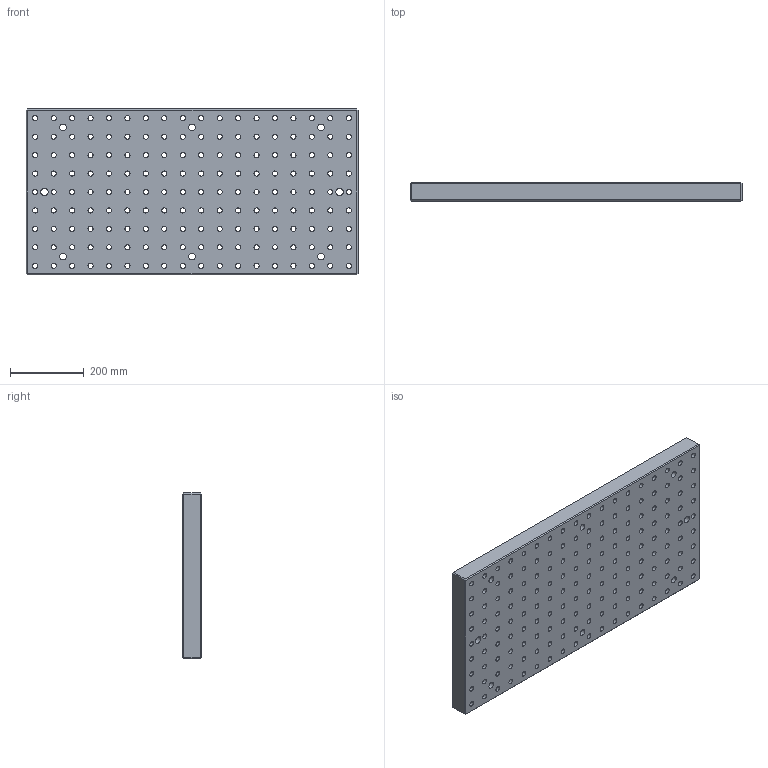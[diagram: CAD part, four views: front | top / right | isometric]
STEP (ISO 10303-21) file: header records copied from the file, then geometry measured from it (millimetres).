
FILE_DESCRIPTION((''),'2;1');
FILE_NAME('FG_WH_BASPL_RCG16NP004','2026-05-18T17:31:46',('Admin'),(''),'CREO PARAMETRIC BY PTC INC, 2025010','CREO PARAMETRIC BY PTC INC, 2025010','');
FILE_SCHEMA(('CONFIG_CONTROL_DESIGN'));
Length unit declared in the file: millimetre
Products named in the file (1): FG_WH_BASPL_RCG16NP004
Bounding box: 900 x 50 x 450 mm (x, y, z)
Volume: 18711434.5 mm3; surface area: 1561594.8 mm2
Topology: 1 solids, 163 shells, 1358 faces, 3384 edges, 2358 vertices
Faces by surface type: cylinder 1000, plane 356, cone 2
Entity records: 42503 total; most frequent: DIRECTION 8428, CARTESIAN_POINT 7101, ORIENTED_EDGE 6120, AXIS2_PLACEMENT_3D 3685, EDGE_CURVE 3384, VERTEX_POINT 2358, CIRCLE 2326, EDGE_LOOP 2028
